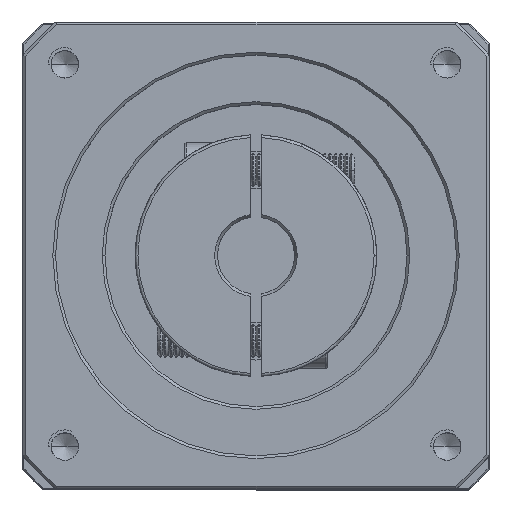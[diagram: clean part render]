
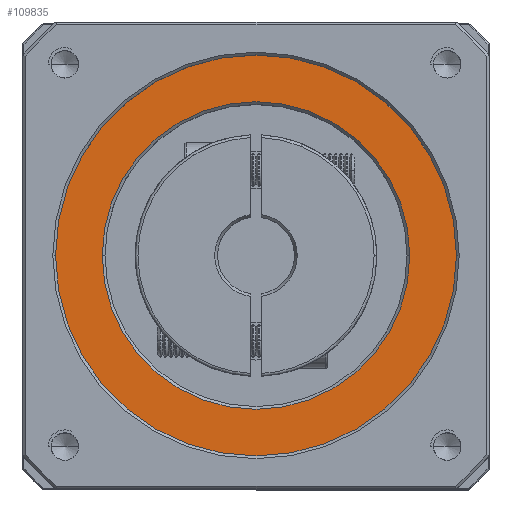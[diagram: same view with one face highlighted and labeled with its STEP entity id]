
A CAD part, top view. The second image highlights one B-rep face of the part: STEP entity #109835.
In plain terms, the highlighted planar face has unit normal (0, 0, 1).
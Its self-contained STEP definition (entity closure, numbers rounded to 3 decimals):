
#2804 = DIRECTION ( 'NONE',  ( 1., 0., 0. ) ) ;
#3760 = CARTESIAN_POINT ( 'NONE',  ( 45.088, 7.351, 102.5 ) ) ;
#11592 = DIRECTION ( 'NONE',  ( 0., 0., 1. ) ) ;
#12557 = DIRECTION ( 'NONE',  ( 1., 0., 0. ) ) ;
#20010 = CARTESIAN_POINT ( 'NONE',  ( 17.088, 7.351, 102.5 ) ) ;
#25912 = CARTESIAN_POINT ( 'NONE',  ( 45.088, 7.351, 102.5 ) ) ;
#28864 = PLANE ( 'NONE',  #67598 ) ;
#29699 = AXIS2_PLACEMENT_3D ( 'NONE', #3760, #64677, #12557 ) ;
#30045 = VERTEX_POINT ( 'NONE', #20010 ) ;
#30550 = EDGE_CURVE ( 'NONE', #94479, #89871, #101207, .T. ) ;
#30948 = CIRCLE ( 'NONE', #77477, 28. ) ;
#34721 = DIRECTION ( 'NONE',  ( 1., 0., 0. ) ) ;
#36184 = DIRECTION ( 'NONE',  ( 0., 0., 1. ) ) ;
#44542 = CARTESIAN_POINT ( 'NONE',  ( 81.588, 7.351, 102.5 ) ) ;
#46306 = CARTESIAN_POINT ( 'NONE',  ( 8.588, 7.351, 102.5 ) ) ;
#48035 = CARTESIAN_POINT ( 'NONE',  ( 73.088, 7.351, 102.5 ) ) ;
#49719 = AXIS2_PLACEMENT_3D ( 'NONE', #107009, #55033, #2804 ) ;
#55033 = DIRECTION ( 'NONE',  ( 0., 0., -1. ) ) ;
#63718 = CARTESIAN_POINT ( 'NONE',  ( 45.088, 7.351, 102.5 ) ) ;
#64677 = DIRECTION ( 'NONE',  ( 0., 0., 1. ) ) ;
#67598 = AXIS2_PLACEMENT_3D ( 'NONE', #63718, #11592, #72415 ) ;
#72415 = DIRECTION ( 'NONE',  ( 1., 0., 0. ) ) ;
#73139 = CIRCLE ( 'NONE', #49719, 28. ) ;
#74372 = FACE_OUTER_BOUND ( 'NONE', #81369, .T. ) ;
#74713 = CIRCLE ( 'NONE', #93926, 36.5 ) ;
#77477 = AXIS2_PLACEMENT_3D ( 'NONE', #25912, #86648, #34721 ) ;
#78323 = EDGE_LOOP ( 'NONE', ( #108137, #110036 ) ) ;
#81334 = EDGE_CURVE ( 'NONE', #30045, #92842, #30948, .T. ) ;
#81369 = EDGE_LOOP ( 'NONE', ( #100621, #102349 ) ) ;
#84674 = EDGE_CURVE ( 'NONE', #89871, #94479, #74713, .T. ) ;
#86648 = DIRECTION ( 'NONE',  ( 0., 0., -1. ) ) ;
#87686 = EDGE_CURVE ( 'NONE', #92842, #30045, #73139, .T. ) ;
#88110 = CARTESIAN_POINT ( 'NONE',  ( 45.088, 7.351, 102.5 ) ) ;
#89871 = VERTEX_POINT ( 'NONE', #46306 ) ;
#92842 = VERTEX_POINT ( 'NONE', #48035 ) ;
#93926 = AXIS2_PLACEMENT_3D ( 'NONE', #88110, #36184, #96807 ) ;
#94479 = VERTEX_POINT ( 'NONE', #44542 ) ;
#94744 = FACE_BOUND ( 'NONE', #78323, .T. ) ;
#96807 = DIRECTION ( 'NONE',  ( 1., 0., 0. ) ) ;
#100621 = ORIENTED_EDGE ( 'NONE', *, *, #30550, .T. ) ;
#101207 = CIRCLE ( 'NONE', #29699, 36.5 ) ;
#102349 = ORIENTED_EDGE ( 'NONE', *, *, #84674, .T. ) ;
#107009 = CARTESIAN_POINT ( 'NONE',  ( 45.088, 7.351, 102.5 ) ) ;
#108137 = ORIENTED_EDGE ( 'NONE', *, *, #87686, .T. ) ;
#109835 = ADVANCED_FACE ( 'NONE', ( #74372, #94744 ), #28864, .T. ) ;
#110036 = ORIENTED_EDGE ( 'NONE', *, *, #81334, .T. ) ;
